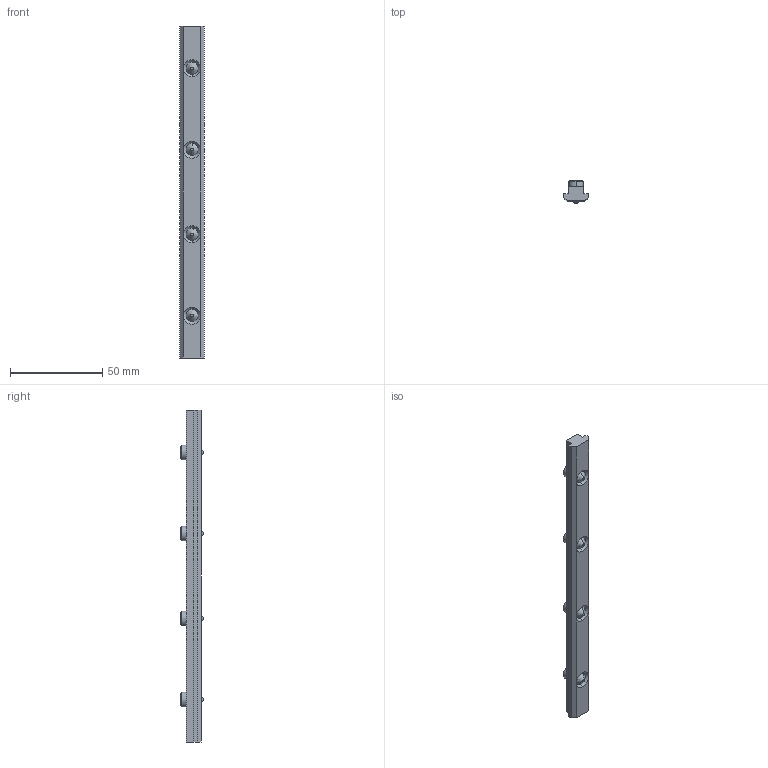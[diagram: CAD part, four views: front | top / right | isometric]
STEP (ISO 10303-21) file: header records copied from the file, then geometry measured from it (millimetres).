
FILE_DESCRIPTION (( 'STEP AP214' ), '1' );
FILE_NAME ('1.3011 t-urakisko 180.STEP', '2024-01-30T11:36:29', ( '' ), ( '' ), 'SwSTEP 2.0', 'SolidWorks 2024', '' );
FILE_SCHEMA (( 'AUTOMOTIVE_DESIGN' ));
Length unit declared in the file: millimetre
Products named in the file (1): 1.3011 t-urakisko 180
Bounding box: 13.4 x 12 x 180 mm (x, y, z)
Volume: 15500.9 mm3; surface area: 9357.8 mm2
Topology: 5 solids, 5 shells, 100 faces, 230 edges, 140 vertices
Faces by surface type: plane 52, cone 32, cylinder 16
Entity records: 2861 total; most frequent: DIRECTION 504, CARTESIAN_POINT 471, ORIENTED_EDGE 460, EDGE_CURVE 230, AXIS2_PLACEMENT_3D 173, VECTOR 158, LINE 158, VERTEX_POINT 140
